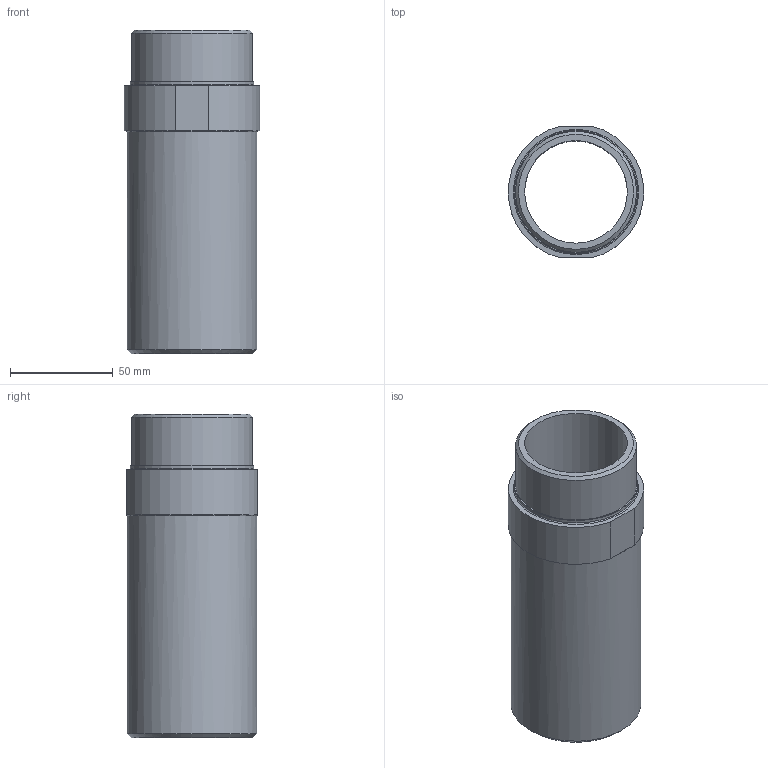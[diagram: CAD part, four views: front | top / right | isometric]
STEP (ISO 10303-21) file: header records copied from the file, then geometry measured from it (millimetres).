
FILE_DESCRIPTION( ( 'STEP AP214' ), '1' );
FILE_NAME( ' ', ' ', ( ' ' ), ( ' ' ), 'PSStep 11.0', 'VISI 17.0', ' ' );
FILE_SCHEMA( ( 'AUTOMOTIVE_DESIGN { 1 0 10303 214 1 1 1 1 }' ) );
Length unit declared in the file: millimetre
Products named in the file (1): 1
Bounding box: 66 x 64 x 157.5 mm (x, y, z)
Volume: 180382 mm3; surface area: 58268.2 mm2
Topology: 1 solids, 1 shells, 21 faces, 46 edges, 29 vertices
Faces by surface type: plane 8, cylinder 6, torus 3, bspline 2, cone 2
Full cylindrical faces by diameter (mm): 50 x1, 58.98 x1, 60 x1, 63.3 x1
Entity records: 911 total; most frequent: CARTESIAN_POINT 298, DIRECTION 96, ORIENTED_EDGE 72, AXIS2_PLACEMENT_3D 42, EDGE_CURVE 36, EDGE_LOOP 32, FACE_OUTER_BOUND 26, VERTEX_POINT 26
